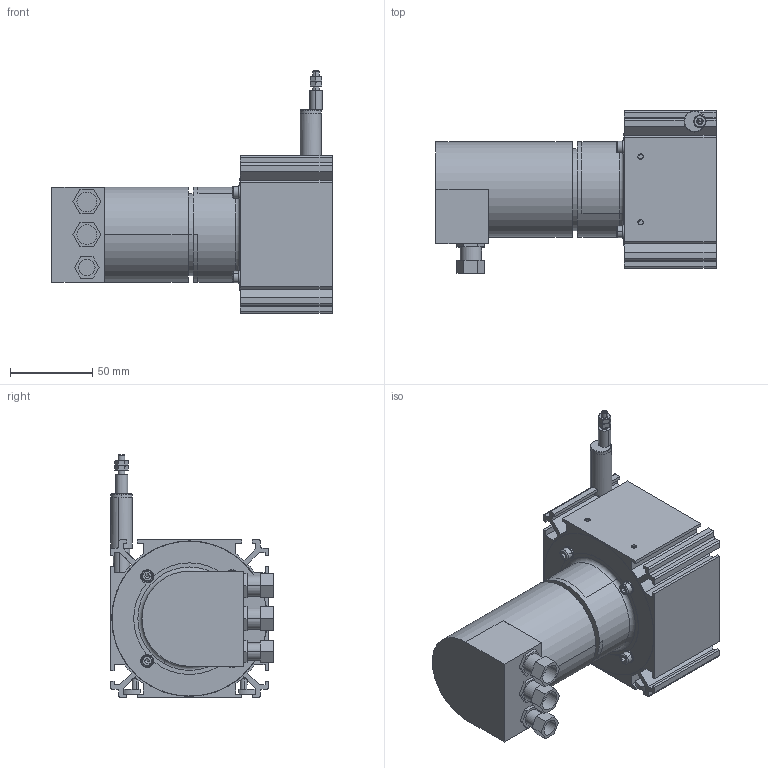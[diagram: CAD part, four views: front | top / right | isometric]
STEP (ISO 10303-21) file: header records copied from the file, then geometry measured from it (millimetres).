
FILE_DESCRIPTION((''),'2;1');
FILE_NAME('','2007-03-19T',(''),(''),'PRO/ENGINEER BY PARAMETRIC TECHNOLOGY CORPORATION, 2003250','PRO/ENGINEER BY PARAMETRIC TECHNOLOGY CORPORATION, 2003250','');
FILE_SCHEMA(('CONFIG_CONTROL_DESIGN'));
Length unit declared in the file: millimetre
Bounding box: 170.7 x 99 x 148 mm (x, y, z)
Volume: 505532.3 mm3; surface area: 123303.9 mm2
Topology: 1 solids, 8 shells, 593 faces, 1614 edges, 1038 vertices
Faces by surface type: plane 296, cylinder 187, cone 72, torus 38
Entity records: 19983 total; most frequent: CARTESIAN_POINT 4829, DIRECTION 3188, ORIENTED_EDGE 3160, EDGE_CURVE 1580, AXIS2_PLACEMENT_3D 1174, VERTEX_POINT 1038, VECTOR 840, LINE 840
